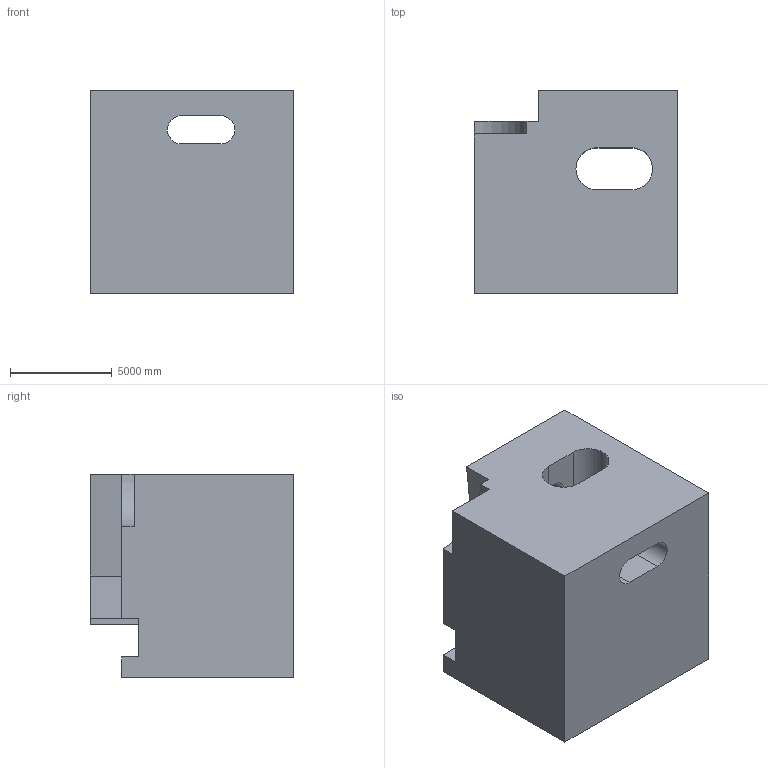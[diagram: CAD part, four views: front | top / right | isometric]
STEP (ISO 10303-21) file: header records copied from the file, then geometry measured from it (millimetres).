
FILE_DESCRIPTION (( 'STEP AP203' ), '1' );
FILE_NAME ('1615.STEP', '2022-08-18T16:11:17', ( 'user' ), ( '' ), 'SwSTEP 2.0', 'SolidWorks 2021', '' );
FILE_SCHEMA (( 'CONFIG_CONTROL_DESIGN' ));
Length unit declared in the file: centimetre
Products named in the file (1): 1615
Bounding box: 10000 x 10000 x 10000 mm (x, y, z)
Volume: 773069312742.6 mm3; surface area: 757485462.7 mm2
Topology: 1 solids, 1 shells, 34 faces, 99 edges, 66 vertices
Faces by surface type: plane 26, cylinder 8
Entity records: 1208 total; most frequent: CARTESIAN_POINT 200, ORIENTED_EDGE 198, DIRECTION 185, EDGE_CURVE 99, LINE 83, VECTOR 83, VERTEX_POINT 66, AXIS2_PLACEMENT_3D 51
